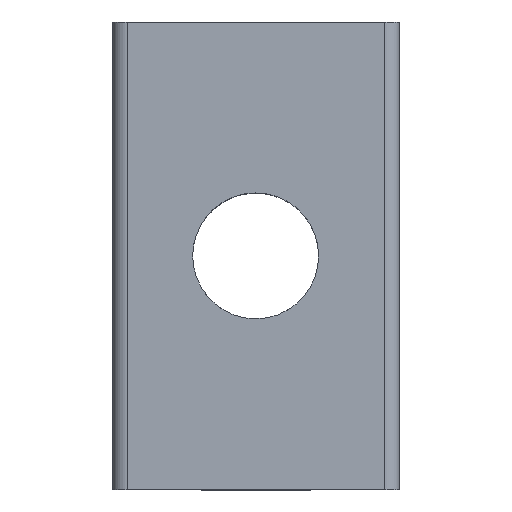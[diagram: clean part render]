
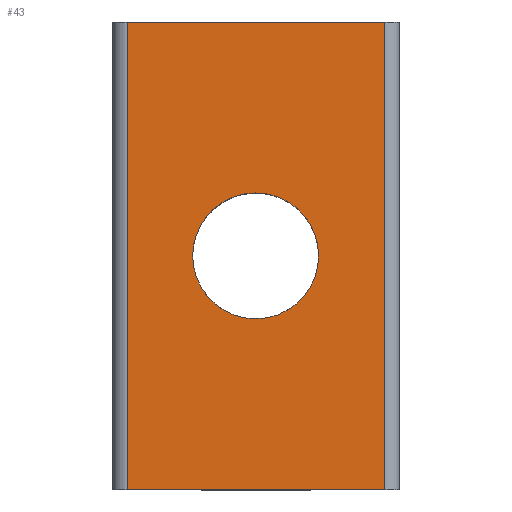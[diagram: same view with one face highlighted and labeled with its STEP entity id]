
A CAD part, top view. The second image highlights one B-rep face of the part: STEP entity #43.
In plain terms, the highlighted planar face has unit normal (0, 0, 1).
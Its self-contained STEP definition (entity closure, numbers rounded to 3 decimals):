
#13 = ORIENTED_EDGE ( 'NONE', *, *, #106, .F. ) ;
#42 = AXIS2_PLACEMENT_3D ( 'NONE', #303, #403, #169 ) ;
#43 = ADVANCED_FACE ( 'NONE', ( #400, #316 ), #440, .F. ) ;
#44 = VERTEX_POINT ( 'NONE', #257 ) ;
#52 = EDGE_LOOP ( 'NONE', ( #306, #13 ) ) ;
#59 = CARTESIAN_POINT ( 'NONE',  ( 2.088, 0., 0. ) ) ;
#68 = EDGE_CURVE ( 'NONE', #44, #470, #492, .T. ) ;
#106 = EDGE_CURVE ( 'NONE', #402, #488, #233, .T. ) ;
#107 = AXIS2_PLACEMENT_3D ( 'NONE', #180, #451, #226 ) ;
#120 = DIRECTION ( 'NONE',  ( 0., 0., 1. ) ) ;
#126 = EDGE_CURVE ( 'NONE', #501, #428, #410, .T. ) ;
#136 = LINE ( 'NONE', #278, #353 ) ;
#169 = DIRECTION ( 'NONE',  ( -1., 0., 0. ) ) ;
#180 = CARTESIAN_POINT ( 'NONE',  ( -0.012, 0., 0. ) ) ;
#191 = AXIS2_PLACEMENT_3D ( 'NONE', #372, #120, #399 ) ;
#195 = ORIENTED_EDGE ( 'NONE', *, *, #126, .F. ) ;
#226 = DIRECTION ( 'NONE',  ( 1., 0., 0. ) ) ;
#233 = CIRCLE ( 'NONE', #107, 2.1 ) ;
#237 = ORIENTED_EDGE ( 'NONE', *, *, #68, .T. ) ;
#238 = CARTESIAN_POINT ( 'NONE',  ( 4.288, -7.8, 0. ) ) ;
#239 = EDGE_CURVE ( 'NONE', #428, #470, #291, .T. ) ;
#248 = CARTESIAN_POINT ( 'NONE',  ( -4.288, -7.8, 0. ) ) ;
#257 = CARTESIAN_POINT ( 'NONE',  ( 4.288, 7.8, 0. ) ) ;
#260 = DIRECTION ( 'NONE',  ( -1., 0., 0. ) ) ;
#268 = EDGE_CURVE ( 'NONE', #488, #402, #281, .T. ) ;
#278 = CARTESIAN_POINT ( 'NONE',  ( 4.288, -7.8, 0. ) ) ;
#281 = CIRCLE ( 'NONE', #191, 2.1 ) ;
#291 = LINE ( 'NONE', #248, #394 ) ;
#303 = CARTESIAN_POINT ( 'NONE',  ( -4.288, -7.8, 0. ) ) ;
#306 = ORIENTED_EDGE ( 'NONE', *, *, #268, .F. ) ;
#316 = FACE_OUTER_BOUND ( 'NONE', #426, .T. ) ;
#321 = VECTOR ( 'NONE', #380, 1000. ) ;
#324 = DIRECTION ( 'NONE',  ( 0., 1., 0. ) ) ;
#337 = DIRECTION ( 'NONE',  ( 0., 1., 0. ) ) ;
#353 = VECTOR ( 'NONE', #324, 1000. ) ;
#360 = CARTESIAN_POINT ( 'NONE',  ( -4.288, 7.8, 0. ) ) ;
#372 = CARTESIAN_POINT ( 'NONE',  ( -0.012, 0., 0. ) ) ;
#380 = DIRECTION ( 'NONE',  ( -1., 0., 0. ) ) ;
#394 = VECTOR ( 'NONE', #337, 1000. ) ;
#399 = DIRECTION ( 'NONE',  ( 1., 0., 0. ) ) ;
#400 = FACE_BOUND ( 'NONE', #52, .T. ) ;
#402 = VERTEX_POINT ( 'NONE', #442 ) ;
#403 = DIRECTION ( 'NONE',  ( 0., 0., -1. ) ) ;
#409 = ORIENTED_EDGE ( 'NONE', *, *, #239, .F. ) ;
#410 = LINE ( 'NONE', #417, #321 ) ;
#417 = CARTESIAN_POINT ( 'NONE',  ( -4.288, -7.8, 0. ) ) ;
#426 = EDGE_LOOP ( 'NONE', ( #237, #409, #195, #489 ) ) ;
#428 = VERTEX_POINT ( 'NONE', #482 ) ;
#440 = PLANE ( 'NONE',  #42 ) ;
#442 = CARTESIAN_POINT ( 'NONE',  ( -2.112, 0., 0. ) ) ;
#451 = DIRECTION ( 'NONE',  ( 0., 0., 1. ) ) ;
#470 = VERTEX_POINT ( 'NONE', #360 ) ;
#482 = CARTESIAN_POINT ( 'NONE',  ( -4.288, -7.8, 0. ) ) ;
#485 = EDGE_CURVE ( 'NONE', #501, #44, #136, .T. ) ;
#488 = VERTEX_POINT ( 'NONE', #59 ) ;
#489 = ORIENTED_EDGE ( 'NONE', *, *, #485, .T. ) ;
#492 = LINE ( 'NONE', #516, #504 ) ;
#501 = VERTEX_POINT ( 'NONE', #238 ) ;
#504 = VECTOR ( 'NONE', #260, 1000. ) ;
#516 = CARTESIAN_POINT ( 'NONE',  ( -4.288, 7.8, 0. ) ) ;
